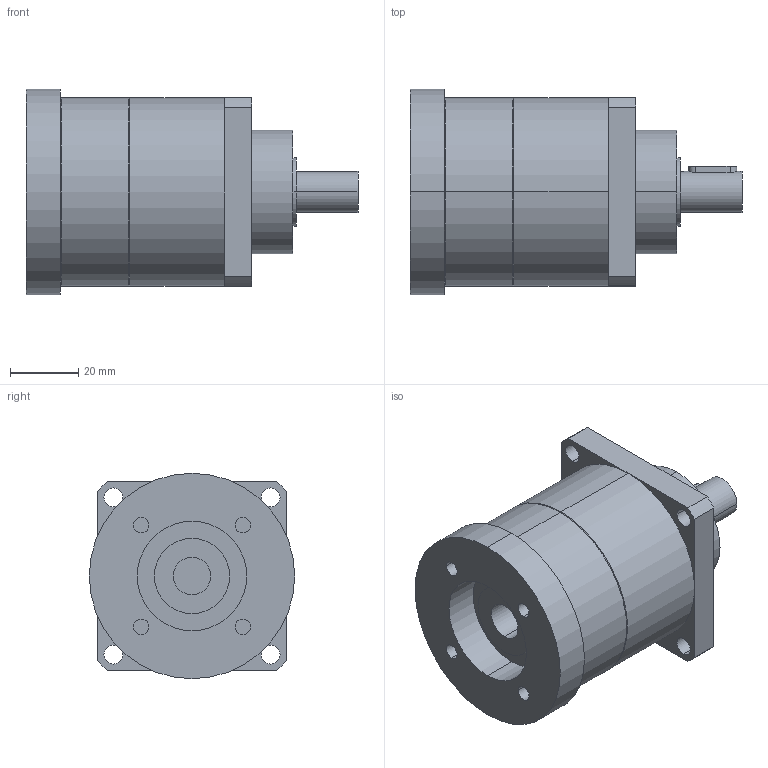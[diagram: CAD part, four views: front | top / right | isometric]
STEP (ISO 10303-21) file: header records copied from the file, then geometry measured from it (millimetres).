
FILE_DESCRIPTION(('CoCreate Modeling STEP Export'),'2;1');
FILE_NAME('GPT55_ig-3-4-5-7-10_12_B5A_11_P11.stp','2014-08-25T14:31:19',(''),(''),'CoCreate Modeling STEP processor for AP214 (Solid Model)','CoCreate Modeling 16.00C 25-Feb-2009 (C) Parametric Technology GmbH','');
FILE_SCHEMA(('AUTOMOTIVE_DESIGN { 1 0 10303 214 1 1 1 1 }'));
Length unit declared in the file: millimetre
Products named in the file (2): GPT55_ig-3-4-5-7-10_12_B5A_11_P11
Assembly tree (1 placements, depth 2):
  GPT55_ig-3-4-5-7-10_12_B5A_11_P11
    GPT55_ig-3-4-5-7-10_12_B5A_11_P11
Bounding box: 97 x 60 x 60 mm (x, y, z)
Volume: 170421.1 mm3; surface area: 24173.6 mm2
Topology: 1 solids, 1 shells, 72 faces, 180 edges, 123 vertices
Faces by surface type: cylinder 42, plane 26, cone 4
Entity records: 2237 total; most frequent: CARTESIAN_POINT 661, ORIENTED_EDGE 360, DIRECTION 268, EDGE_CURVE 180, VERTEX_POINT 123, AXIS2_PLACEMENT_3D 100, EDGE_LOOP 93, FACE_OUTER_BOUND 72
